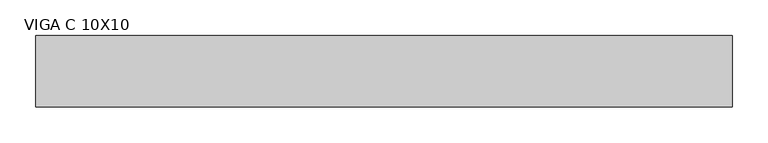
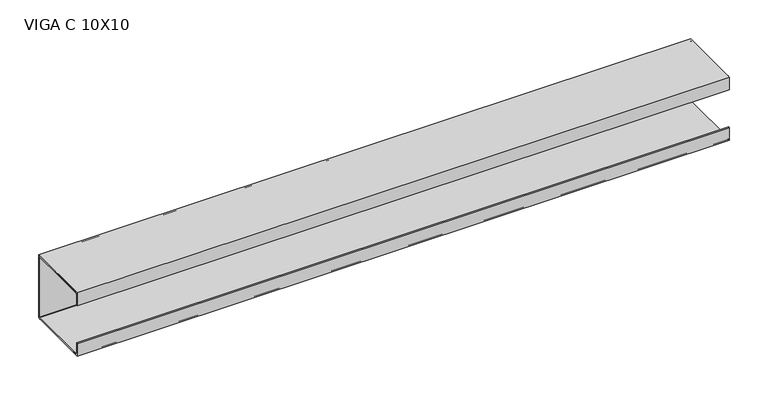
"""IFC4 building model written with IfcOpenShell, lengths in millimetres: beam geometry, VIGA PERFIL C AÇO : VIGA C 10X10."""

from ifc_helpers import new_model, si_unit, point, frame, frame_2d, origin, place, context, project, spatial, polyline, circle_curve, trimmed, segment, composite_curve, outline, extrude, source, transform, mapped, element, save


def viga_c_10x10_8791b15d(model_context):
    return source(origin(), model_context, "Body", "SweptSolid", [
        extrude(outline(polyline([(9.2, -50.0), (-90.8, -50.0), (-90.8, -30.0), (-88.9, -30.0), (-88.9, -48.1), (7.3, -48.1), (7.3, 48.1), (-88.9, 48.1), (-88.9, 30.0), (-90.8, 30.0), (-90.8, 50.0), (9.2, 50.0), (9.2, -50.0)])), frame((-453.5, 0.0, 0.0), z_axis=(1.0, 0.0, 0.0), x_axis=(0.0, 1.0, 0.0)), (0.0, 0.0, 1.0), 974.0),
        extrude(outline(composite_curve([segment(trimmed(circle_curve(frame_2d((5.4, -46.2)), 3.8), [point((9.2, -46.2))], [point((5.4, -50.0))], False, "CARTESIAN"), True, "CONTINUOUS"), segment(polyline([(5.4, -50.0), (-87.0, -50.0)]), True, "CONTINUOUS"), segment(trimmed(circle_curve(frame_2d((-87.0, -46.2)), 3.8), [point((-87.0, -50.0))], [point((-90.8, -46.2))], False, "CARTESIAN"), True, "CONTINUOUS"), segment(polyline([(-90.8, -46.2), (-90.8, -30.0), (-88.9, -30.0), (-88.9, -46.2)]), True, "CONTINUOUS"), segment(trimmed(circle_curve(frame_2d((-87.0, -46.2)), 1.9), [point((-88.9, -46.2))], [point((-87.0, -48.1))], True, "CARTESIAN"), True, "CONTINUOUS"), segment(polyline([(-87.0, -48.1), (5.4, -48.1)]), True, "CONTINUOUS"), segment(trimmed(circle_curve(frame_2d((5.4, -46.2)), 1.9), [point((5.4, -48.1))], [point((7.3, -46.2))], True, "CARTESIAN"), True, "CONTINUOUS"), segment(polyline([(7.3, -46.2), (7.3, 46.2)]), True, "CONTINUOUS"), segment(trimmed(circle_curve(frame_2d((5.4, 46.2)), 1.9), [point((7.3, 46.2))], [point((5.4, 48.1))], True, "CARTESIAN"), True, "CONTINUOUS"), segment(polyline([(5.4, 48.1), (-87.0, 48.1)]), True, "CONTINUOUS"), segment(trimmed(circle_curve(frame_2d((-87.0, 46.2)), 1.9), [point((-87.0, 48.1))], [point((-88.9, 46.2))], True, "CARTESIAN"), True, "CONTINUOUS"), segment(polyline([(-88.9, 46.2), (-88.9, 30.0), (-90.8, 30.0), (-90.8, 46.2)]), True, "CONTINUOUS"), segment(trimmed(circle_curve(frame_2d((-87.0, 46.2)), 3.8), [point((-90.8, 46.2))], [point((-87.0, 50.0))], False, "CARTESIAN"), True, "CONTINUOUS"), segment(polyline([(-87.0, 50.0), (5.4, 50.0)]), True, "CONTINUOUS"), segment(trimmed(circle_curve(frame_2d((5.4, 46.2)), 3.8), [point((5.4, 50.0))], [point((9.2, 46.2))], False, "CARTESIAN"), True, "CONTINUOUS"), segment(polyline([(9.2, 46.2), (9.2, -46.2)]), True, "CONTINUOUS")], self_intersect=False)), frame((-453.5, 0.0, 0.0), z_axis=(1.0, 0.0, 0.0), x_axis=(0.0, 1.0, 0.0)), (0.0, 0.0, 1.0), 974.0),
    ])


if __name__ == "__main__":
    model = new_model("IFC4")
    model_context = context("Model", 3, world=origin())
    ifc_project = project(units=[si_unit("LENGTHUNIT", "METRE", prefix="MILLI")], contexts=[model_context])
    site = spatial("IfcSite", under=ifc_project)
    building = spatial("IfcBuilding", under=site)
    placement = place(None, origin())
    viga_c_10x10_shape = viga_c_10x10_8791b15d(model_context)
    element("IfcBeam", 1, ObjectType="VIGA PERFIL C AÇO : VIGA C 10X10", at=placement, inside=building, context=model_context, shape_type="MappedRepresentation", body=[
        mapped(viga_c_10x10_shape, transform((0.0, 0.0, 0.0), x_axis=(1.0, 0.0, 0.0), y_axis=(0.0, 1.0, 0.0), z_axis=(0.0, 0.0, 1.0))),
    ])
    save(model, "model.ifc")
